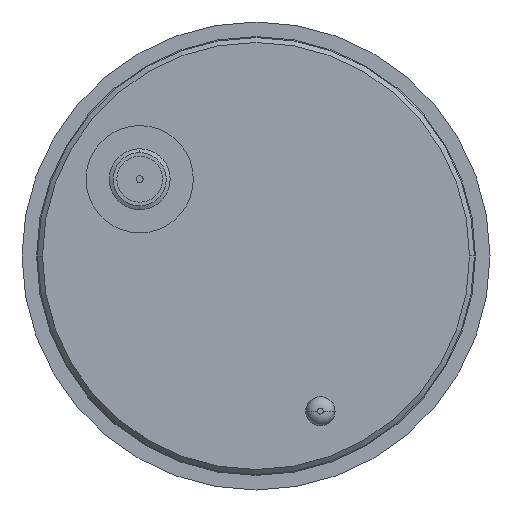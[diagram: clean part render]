
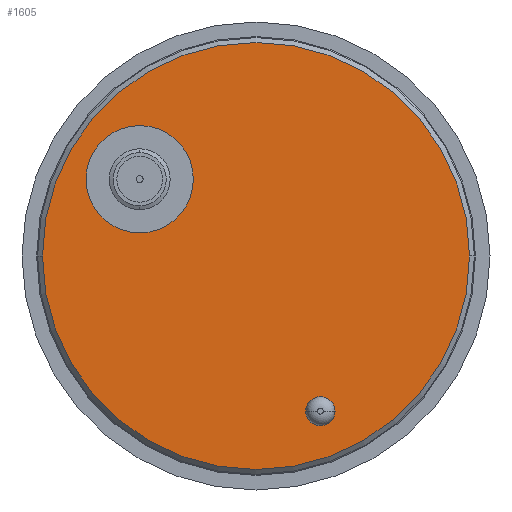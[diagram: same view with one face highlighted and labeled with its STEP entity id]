
A CAD part, front view. The second image highlights one B-rep face of the part: STEP entity #1605.
In plain terms, the highlighted planar face has unit normal (0, -1, 0).
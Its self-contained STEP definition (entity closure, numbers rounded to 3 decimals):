
#433 = VERTEX_POINT ( 'NONE', #3373 ) ;
#446 = VERTEX_POINT ( 'NONE', #3383 ) ;
#550 = VERTEX_POINT ( 'NONE', #3403 ) ;
#647 = AXIS2_PLACEMENT_3D ( 'NONE', #3643, #3644, #3645 ) ;
#650 = CIRCLE ( 'NONE', #647, 21.9 ) ;
#690 = CIRCLE ( 'NONE', #695, 21.9 ) ;
#695 = AXIS2_PLACEMENT_3D ( 'NONE', #3773, #3774, #3775 ) ;
#877 = CIRCLE ( 'NONE', #882, 1.5 ) ;
#882 = AXIS2_PLACEMENT_3D ( 'NONE', #4201, #4202, #4203 ) ;
#887 = CIRCLE ( 'NONE', #889, 5.5 ) ;
#889 = AXIS2_PLACEMENT_3D ( 'NONE', #4214, #4215, #4216 ) ;
#1140 = VERTEX_POINT ( 'NONE', #3509 ) ;
#1229 = VERTEX_POINT ( 'NONE', #3582 ) ;
#1249 = VERTEX_POINT ( 'NONE', #3602 ) ;
#1294 = EDGE_CURVE ( 'NONE', #1229, #446, #650, .T. ) ;
#1328 = EDGE_CURVE ( 'NONE', #446, #1229, #690, .T. ) ;
#1459 = EDGE_CURVE ( 'NONE', #550, #433, #877, .T. ) ;
#1463 = EDGE_CURVE ( 'NONE', #1249, #1140, #887, .T. ) ;
#1605 = ADVANCED_FACE ( 'NONE', ( #5833, #5835, #5837 ), #5838, .F. ) ;
#1791 = EDGE_LOOP ( 'NONE', ( #2142, #2143 ) ) ;
#1799 = EDGE_LOOP ( 'NONE', ( #2140, #2141 ) ) ;
#1800 = EDGE_LOOP ( 'NONE', ( #2138, #2139 ) ) ;
#2138 = ORIENTED_EDGE ( 'NONE', *, *, #2782, .T. ) ;
#2139 = ORIENTED_EDGE ( 'NONE', *, *, #1459, .T. ) ;
#2140 = ORIENTED_EDGE ( 'NONE', *, *, #1294, .F. ) ;
#2141 = ORIENTED_EDGE ( 'NONE', *, *, #1328, .F. ) ;
#2142 = ORIENTED_EDGE ( 'NONE', *, *, #2789, .T. ) ;
#2143 = ORIENTED_EDGE ( 'NONE', *, *, #1463, .T. ) ;
#2782 = EDGE_CURVE ( 'NONE', #433, #550, #6858, .T. ) ;
#2789 = EDGE_CURVE ( 'NONE', #1140, #1249, #6868, .T. ) ;
#3373 = CARTESIAN_POINT ( 'NONE',  ( 5.104, 0., -15.92 ) ) ;
#3383 = CARTESIAN_POINT ( 'NONE',  ( 21.9, 0., 0. ) ) ;
#3403 = CARTESIAN_POINT ( 'NONE',  ( 8.104, 0., -15.92 ) ) ;
#3509 = CARTESIAN_POINT ( 'NONE',  ( -11.929, 0., 2.375 ) ) ;
#3582 = CARTESIAN_POINT ( 'NONE',  ( -21.9, 0., 0. ) ) ;
#3602 = CARTESIAN_POINT ( 'NONE',  ( -11.929, 0., 13.375 ) ) ;
#3643 = CARTESIAN_POINT ( 'NONE',  ( 0., 0., 0. ) ) ;
#3644 = DIRECTION ( 'NONE',  ( 0., 1., 0. ) ) ;
#3645 = DIRECTION ( 'NONE',  ( -1., 0., 0. ) ) ;
#3773 = CARTESIAN_POINT ( 'NONE',  ( 0., 0., 0. ) ) ;
#3774 = DIRECTION ( 'NONE',  ( 0., 1., 0. ) ) ;
#3775 = DIRECTION ( 'NONE',  ( -1., 0., 0. ) ) ;
#4201 = CARTESIAN_POINT ( 'NONE',  ( 6.604, 0., -15.92 ) ) ;
#4202 = DIRECTION ( 'NONE',  ( 0., 1., 0. ) ) ;
#4203 = DIRECTION ( 'NONE',  ( -1., 0., 0. ) ) ;
#4214 = CARTESIAN_POINT ( 'NONE',  ( -11.929, 0., 7.875 ) ) ;
#4215 = DIRECTION ( 'NONE',  ( 0., 1., 0. ) ) ;
#4216 = DIRECTION ( 'NONE',  ( 0., 0., 1. ) ) ;
#5364 = AXIS2_PLACEMENT_3D ( 'NONE', #5834, #5822, #5839 ) ;
#5822 = DIRECTION ( 'NONE',  ( 0., 1., 0. ) ) ;
#5833 = FACE_BOUND ( 'NONE', #1800, .T. ) ;
#5834 = CARTESIAN_POINT ( 'NONE',  ( -5.237, 0., 0. ) ) ;
#5835 = FACE_OUTER_BOUND ( 'NONE', #1799, .T. ) ;
#5837 = FACE_BOUND ( 'NONE', #1791, .T. ) ;
#5838 = PLANE ( 'NONE',  #5364 ) ;
#5839 = DIRECTION ( 'NONE',  ( -1., 0., 0. ) ) ;
#6709 = CARTESIAN_POINT ( 'NONE',  ( 6.604, 0., -15.92 ) ) ;
#6710 = DIRECTION ( 'NONE',  ( 0., 1., 0. ) ) ;
#6711 = DIRECTION ( 'NONE',  ( -1., 0., 0. ) ) ;
#6730 = CARTESIAN_POINT ( 'NONE',  ( -11.929, 0., 7.875 ) ) ;
#6731 = DIRECTION ( 'NONE',  ( 0., 1., 0. ) ) ;
#6732 = DIRECTION ( 'NONE',  ( 0., 0., 1. ) ) ;
#6858 = CIRCLE ( 'NONE', #6860, 1.5 ) ;
#6860 = AXIS2_PLACEMENT_3D ( 'NONE', #6709, #6710, #6711 ) ;
#6868 = CIRCLE ( 'NONE', #6870, 5.5 ) ;
#6870 = AXIS2_PLACEMENT_3D ( 'NONE', #6730, #6731, #6732 ) ;
